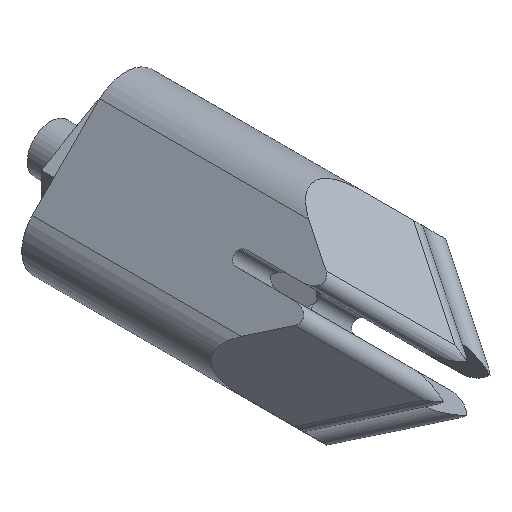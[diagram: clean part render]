
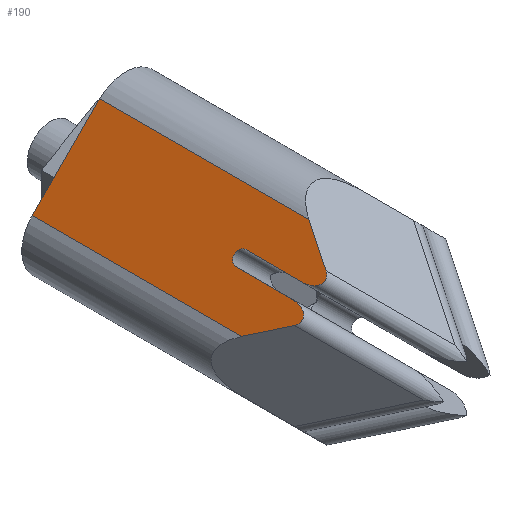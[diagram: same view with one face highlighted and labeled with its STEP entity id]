
A CAD part, isometric view. The second image highlights one B-rep face of the part: STEP entity #190.
In plain terms, the highlighted planar face has unit normal (-0.707, 0, 0.707).
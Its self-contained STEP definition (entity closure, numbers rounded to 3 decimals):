
#190 = ADVANCED_FACE( '', ( #383 ), #384, .F. );
#383 = FACE_OUTER_BOUND( '', #585, .T. );
#384 = PLANE( '', #586 );
#585 = EDGE_LOOP( '', ( #946, #947, #948, #949, #950, #951, #952, #953, #954, #955 ) );
#586 = AXIS2_PLACEMENT_3D( '', #956, #957, #958 );
#946 = ORIENTED_EDGE( '', *, *, #1308, .F. );
#947 = ORIENTED_EDGE( '', *, *, #1243, .T. );
#948 = ORIENTED_EDGE( '', *, *, #1309, .T. );
#949 = ORIENTED_EDGE( '', *, *, #1310, .T. );
#950 = ORIENTED_EDGE( '', *, *, #1220, .T. );
#951 = ORIENTED_EDGE( '', *, *, #1311, .T. );
#952 = ORIENTED_EDGE( '', *, *, #1296, .F. );
#953 = ORIENTED_EDGE( '', *, *, #1312, .F. );
#954 = ORIENTED_EDGE( '', *, *, #1313, .T. );
#955 = ORIENTED_EDGE( '', *, *, #1314, .F. );
#956 = CARTESIAN_POINT( '', ( 0., 0., 12.728 ) );
#957 = DIRECTION( '', ( 0.707, 0., -0.707 ) );
#958 = DIRECTION( '', ( -0.707, 0., -0.707 ) );
#1220 = EDGE_CURVE( '', #1449, #1447, #1450, .T. );
#1243 = EDGE_CURVE( '', #1488, #1489, #1490, .F. );
#1296 = EDGE_CURVE( '', #1563, #1561, #1565, .T. );
#1308 = EDGE_CURVE( '', #1488, #1581, #1582, .T. );
#1309 = EDGE_CURVE( '', #1489, #1583, #1584, .T. );
#1310 = EDGE_CURVE( '', #1583, #1449, #1585, .T. );
#1311 = EDGE_CURVE( '', #1447, #1561, #1586, .F. );
#1312 = EDGE_CURVE( '', #1587, #1563, #1588, .F. );
#1313 = EDGE_CURVE( '', #1587, #1589, #1590, .T. );
#1314 = EDGE_CURVE( '', #1581, #1589, #1591, .T. );
#1447 = VERTEX_POINT( '', #1755 );
#1449 = VERTEX_POINT( '', #1758 );
#1450 = LINE( '', #1759, #1760 );
#1488 = VERTEX_POINT( '', #1812 );
#1489 = VERTEX_POINT( '', #1813 );
#1490 = ELLIPSE( '', #1814, 1.704, 1. );
#1561 = VERTEX_POINT( '', #1905 );
#1563 = VERTEX_POINT( '', #1908 );
#1565 = LINE( '', #1910, #1911 );
#1581 = VERTEX_POINT( '', #1930 );
#1582 = LINE( '', #1931, #1932 );
#1583 = VERTEX_POINT( '', #1933 );
#1584 = LINE( '', #1934, #1935 );
#1585 = CIRCLE( '', #1936, 0.75 );
#1586 = ELLIPSE( '', #1937, 1.704, 1. );
#1587 = VERTEX_POINT( '', #1938 );
#1588 = LINE( '', #1939, #1940 );
#1589 = VERTEX_POINT( '', #1941 );
#1590 = LINE( '', #1942, #1943 );
#1591 = LINE( '', #1944, #1945 );
#1755 = CARTESIAN_POINT( '', ( -5.834, -24.814, 6.894 ) );
#1758 = CARTESIAN_POINT( '', ( -5.834, -18.75, 6.894 ) );
#1759 = CARTESIAN_POINT( '', ( -5.834, -18.75, 6.894 ) );
#1760 = VECTOR( '', #2091, 1000. );
#1812 = CARTESIAN_POINT( '', ( -8.046, -26.139, 4.682 ) );
#1813 = CARTESIAN_POINT( '', ( -6.894, -24.814, 5.834 ) );
#1814 = AXIS2_PLACEMENT_3D( '', #2118, #2119, #2120 );
#1905 = CARTESIAN_POINT( '', ( -4.682, -26.139, 8.046 ) );
#1908 = CARTESIAN_POINT( '', ( -2.751, -22.371, 9.977 ) );
#1910 = CARTESIAN_POINT( '', ( 5.713, -5.856, 18.441 ) );
#1911 = VECTOR( '', #2187, 1000. );
#1930 = CARTESIAN_POINT( '', ( -9.977, -22.371, 2.751 ) );
#1931 = CARTESIAN_POINT( '', ( -14.058, -14.409, -1.33 ) );
#1932 = VECTOR( '', #2203, 1000. );
#1933 = CARTESIAN_POINT( '', ( -6.894, -18.75, 5.834 ) );
#1934 = CARTESIAN_POINT( '', ( -6.894, -37., 5.834 ) );
#1935 = VECTOR( '', #2204, 1000. );
#1936 = AXIS2_PLACEMENT_3D( '', #2205, #2206, #2207 );
#1937 = AXIS2_PLACEMENT_3D( '', #2208, #2209, #2210 );
#1938 = CARTESIAN_POINT( '', ( -2.751, 0., 9.977 ) );
#1939 = CARTESIAN_POINT( '', ( -2.751, -50., 9.977 ) );
#1940 = VECTOR( '', #2211, 1000. );
#1941 = CARTESIAN_POINT( '', ( -9.977, 0., 2.751 ) );
#1942 = CARTESIAN_POINT( '', ( 0., 0., 12.728 ) );
#1943 = VECTOR( '', #2212, 1000. );
#1944 = CARTESIAN_POINT( '', ( -9.977, -50., 2.751 ) );
#1945 = VECTOR( '', #2213, 1000. );
#2091 = DIRECTION( '', ( 0., -1., 0. ) );
#2118 = CARTESIAN_POINT( '', ( -7.601, -24.814, 5.127 ) );
#2119 = DIRECTION( '', ( 0.707, 0., -0.707 ) );
#2120 = DIRECTION( '', ( 0., -1., 0. ) );
#2187 = DIRECTION( '', ( -0.415, -0.81, -0.415 ) );
#2203 = DIRECTION( '', ( -0.415, 0.81, -0.415 ) );
#2204 = DIRECTION( '', ( 0., 1., 0. ) );
#2205 = CARTESIAN_POINT( '', ( -6.364, -18.75, 6.364 ) );
#2206 = DIRECTION( '', ( 0.707, 0., -0.707 ) );
#2207 = DIRECTION( '', ( -0.707, 0., -0.707 ) );
#2208 = CARTESIAN_POINT( '', ( -5.127, -24.814, 7.601 ) );
#2209 = DIRECTION( '', ( 0.707, 0., -0.707 ) );
#2210 = DIRECTION( '', ( 0., 1., 0. ) );
#2211 = DIRECTION( '', ( 0., 1., 0. ) );
#2212 = DIRECTION( '', ( -0.707, 0., -0.707 ) );
#2213 = DIRECTION( '', ( 0., 1., 0. ) );
